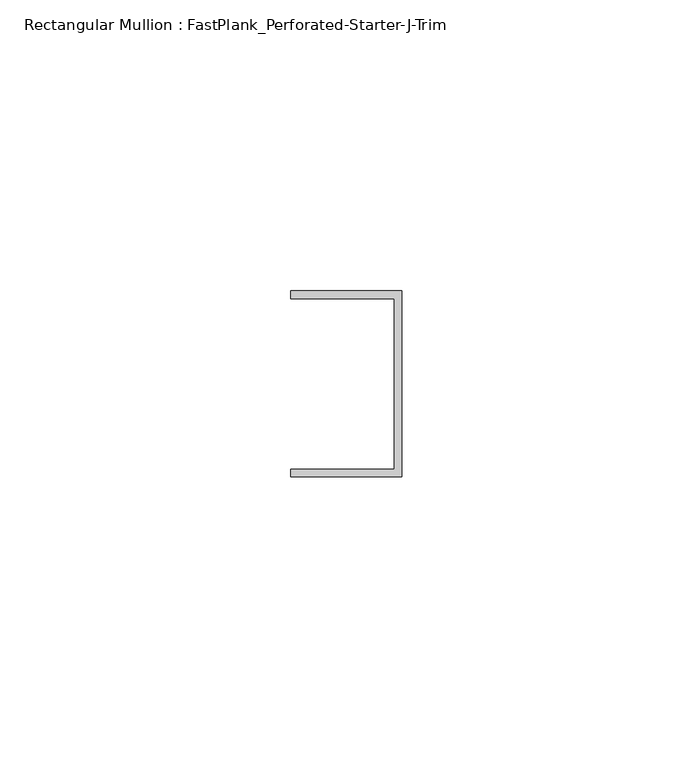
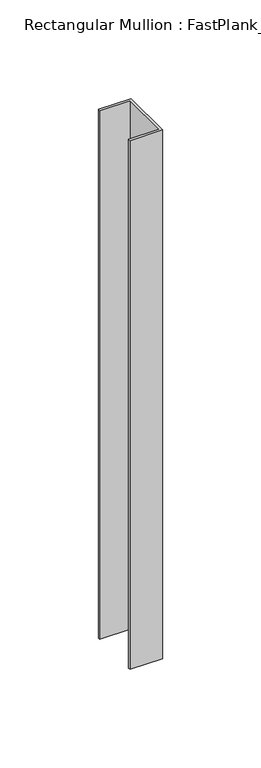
"""IFC4 building model written with IfcOpenShell, lengths in millimetres: member geometry, Rectangular Mullion : FastPlank_Perforated-Starter-J-Trim."""

from ifc_helpers import new_model, si_unit, frame, origin, place, context, project, spatial, polyline, outline, extrude, source, transform, mapped, element, save


def rectangular_mullion_fastplank_perforated_starter_j_trim_cb19bc37(model_context):
    return source(origin(), model_context, "Body", "SweptSolid", [
        extrude(outline(polyline([(0.0, -10.2620691), (-19.05, -10.2620691), (-19.05, -8.9620717), (-1.3000189, -8.9620717), (-1.3000189, 20.3412717), (-19.05, 20.3412717), (-19.05, 21.6412691), (0.0, 21.6412691), (0.0, -10.2620691)])), frame((0.0, 0.0, -327.1206402), z_axis=(0.0, 0.0, 1.0), x_axis=(1.0, 0.0, 0.0)), (0.0, 0.0, 1.0), 327.1206402),
    ])


if __name__ == "__main__":
    model = new_model("IFC4")
    model_context = context("Model", 3, world=origin())
    ifc_project = project(units=[si_unit("LENGTHUNIT", "METRE", prefix="MILLI")], contexts=[model_context])
    site = spatial("IfcSite", under=ifc_project)
    building = spatial("IfcBuilding", under=site)
    placement = place(None, origin())
    rectangular_mullion_fastplank_perforated_starter_j_trim_shape = rectangular_mullion_fastplank_perforated_starter_j_trim_cb19bc37(model_context)
    element("IfcMember", 1, ObjectType="Rectangular Mullion : FastPlank_Perforated-Starter-J-Trim", at=placement, inside=building, context=model_context, shape_type="MappedRepresentation", body=[
        mapped(rectangular_mullion_fastplank_perforated_starter_j_trim_shape, transform((0.0, 0.0, 0.0), x_axis=(1.0, 0.0, 0.0), y_axis=(0.0, 1.0, 0.0), z_axis=(0.0, 0.0, 1.0))),
    ])
    save(model, "model.ifc")
